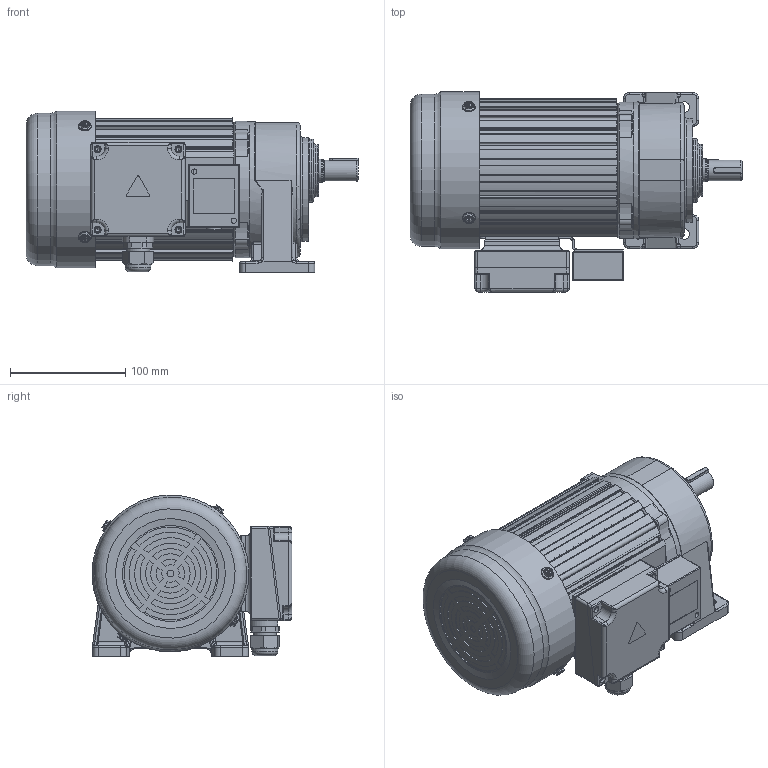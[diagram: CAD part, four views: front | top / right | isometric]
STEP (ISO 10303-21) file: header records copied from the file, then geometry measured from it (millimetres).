
FILE_DESCRIPTION(/* description */ (''),/* implementation_level */ '2;1');
FILE_NAME(/* name */ 'CH18-200-3～200外形多速比带刹车.stp',/* time_stamp */ '2025-05-02T09:57:45+08:00',/* author */ (''),/* organization */ (''),/* preprocessor_version */ 'ST-DEVELOPER v18.102',/* originating_system */ 'SIEMENS PLM Software NX 2027',/* authorisation */ '');
FILE_SCHEMA (('AP203_CONFIGURATION_CONTROLLED_3D_DESIGN_OF_MECHANICAL_PARTS_AND_ASSEMBLIES_MIM_LF { 1 0 10303 403 2 1 2}'));
Length unit declared in the file: millimetre
Products named in the file (1): CH18-200-3～200外形多速比带刹车_
objects
Bounding box: 287.5 x 173.19 x 140.24 mm (x, y, z)
Volume: 3002204.6 mm3; surface area: 345369.6 mm2
Topology: 24 solids, 24 shells, 3807 faces, 9767 edges, 6094 vertices
Faces by surface type: plane 1894, cylinder 1057, torus 290, cone 261, bspline 131, extrusion 96, sphere 62, revolution 16
Full cylindrical faces by diameter (mm): 3 x1, 3.3 x4, 3.5 x1, 4.2 x12, 4.336 x2, 4.5 x2, 4.826 x2, 5 x4, 5.795 x3, 6 x1, 6.4 x4, 9 x4, 10 x3, 11 x7, 12.5 x1, 13 x1, 13.98 x1, 14.5 x1, 16 x3, 17 x2, 17.6 x1, 18 x1, 19.5 x1, 20 x5, 21 x1, 22.5 x1, 35 x1, 45 x1, 50 x1, 55 x1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
Entity records: 124621 total; most frequent: CARTESIAN_POINT 35456, ORIENTED_EDGE 18924, DIRECTION 17664, EDGE_CURVE 9462, AXIS2_PLACEMENT_3D 6276, VERTEX_POINT 6028, VECTOR 5096, LINE 5000
